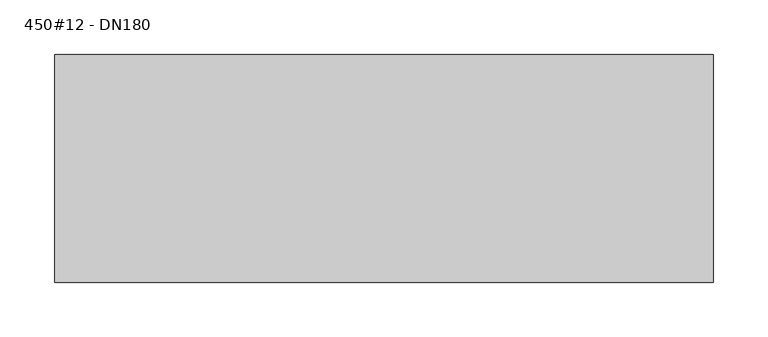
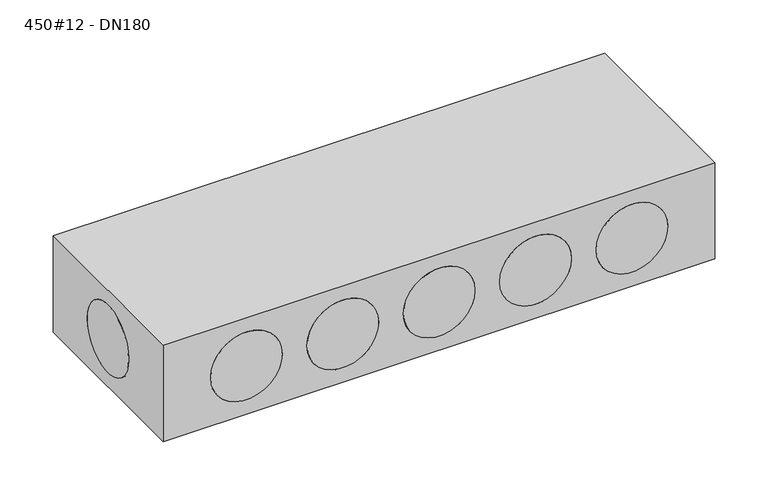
"""IFC4 building model written with IfcOpenShell, lengths in millimetres: duct fitting geometry, NLRS_57_DUF_UN_air plenum_M&G : 450#12 - DN180."""

from ifc_helpers import new_model, si_unit, point, frame, frame_2d, origin, place, context, project, spatial, polyline, circle_curve, trimmed, segment, composite_curve, outline, extrude, source, transform, mapped, element, save
from ifc_brep_helpers import plane_surface, revolved_surface, advanced_brep


def duct_fitting_450_12_dn180_e2c94f1d(model_context):
    return source(origin(), model_context, "Body", "SolidModel", [
        extrude(outline(composite_curve([segment(trimmed(circle_curve(frame_2d((0.0, 55.5)), 39.0), [point((-39.0, 55.5))], [point((39.0, 55.5))], False, "CARTESIAN"), True, "CONTINUOUS"), segment(trimmed(circle_curve(frame_2d((0.0, 55.5)), 39.0), [point((39.0, 55.5))], [point((-39.0, 55.5))], False, "CARTESIAN"), True, "CONTINUOUS")], self_intersect=False)), frame((297.5, 0.0, 0.0), z_axis=(1.0, 0.0, 0.0), x_axis=(0.0, 1.0, 0.0)), (0.0, 0.0, 1.0), 3.0),
        extrude(outline(composite_curve([segment(trimmed(circle_curve(frame_2d((0.0, 55.5)), 39.0), [point((-39.0, 55.5))], [point((39.0, 55.5))], False, "CARTESIAN"), True, "CONTINUOUS"), segment(trimmed(circle_curve(frame_2d((0.0, 55.5)), 39.0), [point((39.0, 55.5))], [point((-39.0, 55.5))], False, "CARTESIAN"), True, "CONTINUOUS")], self_intersect=False)), frame((-300.5, 0.0, 0.0), z_axis=(1.0, 0.0, 0.0), x_axis=(0.0, 1.0, 0.0)), (0.0, 0.0, 1.0), 3.0),
        extrude(outline(composite_curve([segment(trimmed(circle_curve(frame_2d((55.5, -210.0)), 39.0), [point((55.5, -249.0))], [point((55.5, -171.0))], False, "CARTESIAN"), True, "CONTINUOUS"), segment(trimmed(circle_curve(frame_2d((55.5, -210.0)), 39.0), [point((55.5, -171.0))], [point((55.5, -249.0))], False, "CARTESIAN"), True, "CONTINUOUS")], self_intersect=False)), frame((0.0, 101.0, 0.0), z_axis=(0.0, 1.0, 0.0), x_axis=(0.0, 0.0, 1.0)), (0.0, 0.0, 1.0), 3.0),
        extrude(outline(composite_curve([segment(trimmed(circle_curve(frame_2d((55.5, -105.0)), 39.0), [point((55.5, -144.0))], [point((55.5, -66.0))], False, "CARTESIAN"), True, "CONTINUOUS"), segment(trimmed(circle_curve(frame_2d((55.5, -105.0)), 39.0), [point((55.5, -66.0))], [point((55.5, -144.0))], False, "CARTESIAN"), True, "CONTINUOUS")], self_intersect=False)), frame((0.0, 101.0, 0.0), z_axis=(0.0, 1.0, 0.0), x_axis=(0.0, 0.0, 1.0)), (0.0, 0.0, 1.0), 3.0),
        extrude(outline(composite_curve([segment(trimmed(circle_curve(frame_2d((55.5, 0.0)), 39.0), [point((55.5, -39.0))], [point((55.5, 39.0))], False, "CARTESIAN"), True, "CONTINUOUS"), segment(trimmed(circle_curve(frame_2d((55.5, 0.0)), 39.0), [point((55.5, 39.0))], [point((55.5, -39.0))], False, "CARTESIAN"), True, "CONTINUOUS")], self_intersect=False)), frame((0.0, 101.0, 0.0), z_axis=(0.0, 1.0, 0.0), x_axis=(0.0, 0.0, 1.0)), (0.0, 0.0, 1.0), 3.0),
        extrude(outline(composite_curve([segment(trimmed(circle_curve(frame_2d((55.5, 105.0)), 39.0), [point((55.5, 66.0))], [point((55.5, 144.0))], False, "CARTESIAN"), True, "CONTINUOUS"), segment(trimmed(circle_curve(frame_2d((55.5, 105.0)), 39.0), [point((55.5, 144.0))], [point((55.5, 66.0))], False, "CARTESIAN"), True, "CONTINUOUS")], self_intersect=False)), frame((0.0, 101.0, 0.0), z_axis=(0.0, 1.0, 0.0), x_axis=(0.0, 0.0, 1.0)), (0.0, 0.0, 1.0), 3.0),
        extrude(outline(composite_curve([segment(trimmed(circle_curve(frame_2d((55.5, 210.0)), 39.0), [point((55.5, 171.0))], [point((55.5, 249.0))], False, "CARTESIAN"), True, "CONTINUOUS"), segment(trimmed(circle_curve(frame_2d((55.5, 210.0)), 39.0), [point((55.5, 249.0))], [point((55.5, 171.0))], False, "CARTESIAN"), True, "CONTINUOUS")], self_intersect=False)), frame((0.0, 101.0, 0.0), z_axis=(0.0, 1.0, 0.0), x_axis=(0.0, 0.0, 1.0)), (0.0, 0.0, 1.0), 3.0),
        extrude(outline(composite_curve([segment(trimmed(circle_curve(frame_2d((55.5, -210.0)), 39.0), [point((55.5, -249.0))], [point((55.5, -171.0))], False, "CARTESIAN"), True, "CONTINUOUS"), segment(trimmed(circle_curve(frame_2d((55.5, -210.0)), 39.0), [point((55.5, -171.0))], [point((55.5, -249.0))], False, "CARTESIAN"), True, "CONTINUOUS")], self_intersect=False)), frame((0.0, -104.0, 0.0), z_axis=(0.0, 1.0, 0.0), x_axis=(0.0, 0.0, 1.0)), (0.0, 0.0, 1.0), 3.0),
        extrude(outline(composite_curve([segment(trimmed(circle_curve(frame_2d((55.5, -105.0)), 39.0), [point((55.5, -144.0))], [point((55.5, -66.0))], False, "CARTESIAN"), True, "CONTINUOUS"), segment(trimmed(circle_curve(frame_2d((55.5, -105.0)), 39.0), [point((55.5, -66.0))], [point((55.5, -144.0))], False, "CARTESIAN"), True, "CONTINUOUS")], self_intersect=False)), frame((0.0, -104.0, 0.0), z_axis=(0.0, 1.0, 0.0), x_axis=(0.0, 0.0, 1.0)), (0.0, 0.0, 1.0), 3.0),
        extrude(outline(composite_curve([segment(trimmed(circle_curve(frame_2d((55.5, 0.0)), 39.0), [point((55.5, -39.0))], [point((55.5, 39.0))], False, "CARTESIAN"), True, "CONTINUOUS"), segment(trimmed(circle_curve(frame_2d((55.5, 0.0)), 39.0), [point((55.5, 39.0))], [point((55.5, -39.0))], False, "CARTESIAN"), True, "CONTINUOUS")], self_intersect=False)), frame((0.0, -104.0, 0.0), z_axis=(0.0, 1.0, 0.0), x_axis=(0.0, 0.0, 1.0)), (0.0, 0.0, 1.0), 3.0),
        extrude(outline(composite_curve([segment(trimmed(circle_curve(frame_2d((55.5, 105.0)), 39.0), [point((55.5, 66.0))], [point((55.5, 144.0))], False, "CARTESIAN"), True, "CONTINUOUS"), segment(trimmed(circle_curve(frame_2d((55.5, 105.0)), 39.0), [point((55.5, 144.0))], [point((55.5, 66.0))], False, "CARTESIAN"), True, "CONTINUOUS")], self_intersect=False)), frame((0.0, -104.0, 0.0), z_axis=(0.0, 1.0, 0.0), x_axis=(0.0, 0.0, 1.0)), (0.0, 0.0, 1.0), 3.0),
        extrude(outline(composite_curve([segment(trimmed(circle_curve(frame_2d((55.5, 210.0)), 39.0), [point((55.5, 171.0))], [point((55.5, 249.0))], False, "CARTESIAN"), True, "CONTINUOUS"), segment(trimmed(circle_curve(frame_2d((55.5, 210.0)), 39.0), [point((55.5, 249.0))], [point((55.5, 171.0))], False, "CARTESIAN"), True, "CONTINUOUS")], self_intersect=False)), frame((0.0, -104.0, 0.0), z_axis=(0.0, 1.0, 0.0), x_axis=(0.0, 0.0, 1.0)), (0.0, 0.0, 1.0), 3.0),
        advanced_brep(
        [(300.5, 104.0, 111.0), (-300.5, 104.0, 111.0), (-300.5, -104.0, 111.0), (300.5, -104.0, 111.0), (300.5, 104.0, 0.0), (300.5, -104.0, 0.0), (-300.5, -104.0, 0.0), (-300.5, 104.0, 0.0), (-249.0, 104.0, 55.5), (-171.0, 104.0, 55.5), (-144.0, 104.0, 55.5), (-66.0, 104.0, 55.5), (-39.0, 104.0, 55.5), (39.0, 104.0, 55.5), (66.0, 104.0, 55.5), (144.0, 104.0, 55.5), (171.0, 104.0, 55.5), (249.0, 104.0, 55.5), (-300.5, -39.0, 55.5), (-300.5, 39.0, 55.5), (-171.0, -104.0, 55.5), (-249.0, -104.0, 55.5), (-66.0, -104.0, 55.5), (-144.0, -104.0, 55.5), (39.0, -104.0, 55.5), (-39.0, -104.0, 55.5), (144.0, -104.0, 55.5), (66.0, -104.0, 55.5), (249.0, -104.0, 55.5), (171.0, -104.0, 55.5), (300.5, 39.0, 55.5), (300.5, -39.0, 55.5), (-249.0, -95.0, 55.5), (-171.0, -95.0, 55.5), (-144.0, -95.0, 55.5), (-66.0, -95.0, 55.5), (-39.0, -95.0, 55.5), (39.0, -95.0, 55.5), (66.0, -95.0, 55.5), (144.0, -95.0, 55.5), (171.0, -95.0, 55.5), (249.0, -95.0, 55.5), (-295.0, -39.0, 55.5), (-295.0, 39.0, 55.5), (-249.0, 95.0, 55.5), (-171.0, 95.0, 55.5), (-144.0, 95.0, 55.5), (-66.0, 95.0, 55.5), (-39.0, 95.0, 55.5), (39.0, 95.0, 55.5), (66.0, 95.0, 55.5), (144.0, 95.0, 55.5), (171.0, 95.0, 55.5), (249.0, 95.0, 55.5), (295.0, -39.0, 55.5), (295.0, 39.0, 55.5)],
        [
            (0, 1),
            (1, 2),
            (2, 3),
            (3, 0),
            (4, 5),
            (5, 6),
            (6, 7),
            (7, 4),
            (0, 4),
            (7, 1),
            (8, 9, circle_curve(frame((-210.0, 104.0, 55.5), z_axis=(0.0, -1.0, 0.0), x_axis=(1.0, 0.0, 0.0)), 39.0)),
            (9, 8, circle_curve(frame((-210.0, 104.0, 55.5), z_axis=(0.0, -1.0, 0.0), x_axis=(1.0, 0.0, 0.0)), 39.0)),
            (10, 11, circle_curve(frame((-105.0, 104.0, 55.5), z_axis=(0.0, -1.0, 0.0), x_axis=(1.0, 0.0, 0.0)), 39.0)),
            (11, 10, circle_curve(frame((-105.0, 104.0, 55.5), z_axis=(0.0, -1.0, 0.0), x_axis=(1.0, 0.0, 0.0)), 39.0)),
            (12, 13, circle_curve(frame((0.0, 104.0, 55.5), z_axis=(0.0, -1.0, 0.0), x_axis=(1.0, 0.0, 0.0)), 39.0)),
            (13, 12, circle_curve(frame((0.0, 104.0, 55.5), z_axis=(0.0, -1.0, 0.0), x_axis=(1.0, 0.0, 0.0)), 39.0)),
            (14, 15, circle_curve(frame((105.0, 104.0, 55.5), z_axis=(0.0, -1.0, 0.0), x_axis=(1.0, 0.0, 0.0)), 39.0)),
            (15, 14, circle_curve(frame((105.0, 104.0, 55.5), z_axis=(0.0, -1.0, 0.0), x_axis=(1.0, 0.0, 0.0)), 39.0)),
            (16, 17, circle_curve(frame((210.0, 104.0, 55.5), z_axis=(0.0, -1.0, 0.0), x_axis=(1.0, 0.0, 0.0)), 39.0)),
            (17, 16, circle_curve(frame((210.0, 104.0, 55.5), z_axis=(0.0, -1.0, 0.0), x_axis=(1.0, 0.0, 0.0)), 39.0)),
            (6, 2),
            (18, 19, circle_curve(frame((-300.5, 0.0, 55.5), z_axis=(1.0, 0.0, 0.0), x_axis=(0.0, 1.0, 0.0)), 39.0)),
            (19, 18, circle_curve(frame((-300.5, 0.0, 55.5), z_axis=(1.0, 0.0, 0.0), x_axis=(0.0, 1.0, 0.0)), 39.0)),
            (5, 3),
            (20, 21, circle_curve(frame((-210.0, -104.0, 55.5), z_axis=(0.0, 1.0, 0.0), x_axis=(1.0, 0.0, 0.0)), 39.0)),
            (21, 20, circle_curve(frame((-210.0, -104.0, 55.5), z_axis=(0.0, 1.0, 0.0), x_axis=(1.0, 0.0, 0.0)), 39.0)),
            (22, 23, circle_curve(frame((-105.0, -104.0, 55.5), z_axis=(0.0, 1.0, 0.0), x_axis=(1.0, 0.0, 0.0)), 39.0)),
            (23, 22, circle_curve(frame((-105.0, -104.0, 55.5), z_axis=(0.0, 1.0, 0.0), x_axis=(1.0, 0.0, 0.0)), 39.0)),
            (24, 25, circle_curve(frame((0.0, -104.0, 55.5), z_axis=(0.0, 1.0, 0.0), x_axis=(1.0, 0.0, 0.0)), 39.0)),
            (25, 24, circle_curve(frame((0.0, -104.0, 55.5), z_axis=(0.0, 1.0, 0.0), x_axis=(1.0, 0.0, 0.0)), 39.0)),
            (26, 27, circle_curve(frame((105.0, -104.0, 55.5), z_axis=(0.0, 1.0, 0.0), x_axis=(1.0, 0.0, 0.0)), 39.0)),
            (27, 26, circle_curve(frame((105.0, -104.0, 55.5), z_axis=(0.0, 1.0, 0.0), x_axis=(1.0, 0.0, 0.0)), 39.0)),
            (28, 29, circle_curve(frame((210.0, -104.0, 55.5), z_axis=(0.0, 1.0, 0.0), x_axis=(1.0, 0.0, 0.0)), 39.0)),
            (29, 28, circle_curve(frame((210.0, -104.0, 55.5), z_axis=(0.0, 1.0, 0.0), x_axis=(1.0, 0.0, 0.0)), 39.0)),
            (30, 31, circle_curve(frame((300.5, 0.0, 55.5), z_axis=(-1.0, 0.0, 0.0), x_axis=(0.0, 1.0, 0.0)), 39.0)),
            (31, 30, circle_curve(frame((300.5, 0.0, 55.5), z_axis=(-1.0, 0.0, 0.0), x_axis=(0.0, 1.0, 0.0)), 39.0)),
            (32, 33, circle_curve(frame((-210.0, -95.0, 55.5), z_axis=(0.0, -1.0, 0.0), x_axis=(1.0, 0.0, 0.0)), 39.0)),
            (33, 32, circle_curve(frame((-210.0, -95.0, 55.5), z_axis=(0.0, -1.0, 0.0), x_axis=(1.0, 0.0, 0.0)), 39.0)),
            (34, 35, circle_curve(frame((-105.0, -95.0, 55.5), z_axis=(0.0, -1.0, 0.0), x_axis=(1.0, 0.0, 0.0)), 39.0)),
            (35, 34, circle_curve(frame((-105.0, -95.0, 55.5), z_axis=(0.0, -1.0, 0.0), x_axis=(1.0, 0.0, 0.0)), 39.0)),
            (36, 37, circle_curve(frame((0.0, -95.0, 55.5), z_axis=(0.0, -1.0, 0.0), x_axis=(1.0, 0.0, 0.0)), 39.0)),
            (37, 36, circle_curve(frame((0.0, -95.0, 55.5), z_axis=(0.0, -1.0, 0.0), x_axis=(1.0, 0.0, 0.0)), 39.0)),
            (38, 39, circle_curve(frame((105.0, -95.0, 55.5), z_axis=(0.0, -1.0, 0.0), x_axis=(1.0, 0.0, 0.0)), 39.0)),
            (39, 38, circle_curve(frame((105.0, -95.0, 55.5), z_axis=(0.0, -1.0, 0.0), x_axis=(1.0, 0.0, 0.0)), 39.0)),
            (40, 41, circle_curve(frame((210.0, -95.0, 55.5), z_axis=(0.0, -1.0, 0.0), x_axis=(1.0, 0.0, 0.0)), 39.0)),
            (41, 40, circle_curve(frame((210.0, -95.0, 55.5), z_axis=(0.0, -1.0, 0.0), x_axis=(1.0, 0.0, 0.0)), 39.0)),
            (32, 21),
            (20, 33),
            (34, 23),
            (22, 35),
            (36, 25),
            (24, 37),
            (38, 27),
            (26, 39),
            (40, 29),
            (28, 41),
            (42, 43, circle_curve(frame((-295.0, 0.0, 55.5), z_axis=(-1.0, 0.0, 0.0), x_axis=(0.0, 1.0, 0.0)), 39.0)),
            (43, 42, circle_curve(frame((-295.0, 0.0, 55.5), z_axis=(-1.0, 0.0, 0.0), x_axis=(0.0, 1.0, 0.0)), 39.0)),
            (43, 19),
            (18, 42),
            (44, 45, circle_curve(frame((-210.0, 95.0, 55.5), z_axis=(0.0, 1.0, 0.0), x_axis=(1.0, 0.0, 0.0)), 39.0)),
            (45, 44, circle_curve(frame((-210.0, 95.0, 55.5), z_axis=(0.0, 1.0, 0.0), x_axis=(1.0, 0.0, 0.0)), 39.0)),
            (46, 47, circle_curve(frame((-105.0, 95.0, 55.5), z_axis=(0.0, 1.0, 0.0), x_axis=(1.0, 0.0, 0.0)), 39.0)),
            (47, 46, circle_curve(frame((-105.0, 95.0, 55.5), z_axis=(0.0, 1.0, 0.0), x_axis=(1.0, 0.0, 0.0)), 39.0)),
            (48, 49, circle_curve(frame((0.0, 95.0, 55.5), z_axis=(0.0, 1.0, 0.0), x_axis=(1.0, 0.0, 0.0)), 39.0)),
            (49, 48, circle_curve(frame((0.0, 95.0, 55.5), z_axis=(0.0, 1.0, 0.0), x_axis=(1.0, 0.0, 0.0)), 39.0)),
            (50, 51, circle_curve(frame((105.0, 95.0, 55.5), z_axis=(0.0, 1.0, 0.0), x_axis=(1.0, 0.0, 0.0)), 39.0)),
            (51, 50, circle_curve(frame((105.0, 95.0, 55.5), z_axis=(0.0, 1.0, 0.0), x_axis=(1.0, 0.0, 0.0)), 39.0)),
            (52, 53, circle_curve(frame((210.0, 95.0, 55.5), z_axis=(0.0, 1.0, 0.0), x_axis=(1.0, 0.0, 0.0)), 39.0)),
            (53, 52, circle_curve(frame((210.0, 95.0, 55.5), z_axis=(0.0, 1.0, 0.0), x_axis=(1.0, 0.0, 0.0)), 39.0)),
            (45, 9),
            (8, 44),
            (47, 11),
            (10, 46),
            (49, 13),
            (12, 48),
            (51, 15),
            (14, 50),
            (53, 17),
            (16, 52),
            (54, 55, circle_curve(frame((295.0, 0.0, 55.5), z_axis=(1.0, 0.0, 0.0), x_axis=(0.0, 1.0, 0.0)), 39.0)),
            (55, 54, circle_curve(frame((295.0, 0.0, 55.5), z_axis=(1.0, 0.0, 0.0), x_axis=(0.0, 1.0, 0.0)), 39.0)),
            (54, 31),
            (30, 55),
        ],
        [
            plane_surface(frame((-300.5, 104.0, 111.0), z_axis=(0.0, 0.0, 1.0), x_axis=(-1.0, 0.0, 0.0))),
            plane_surface(frame((-300.5, 104.0, 0.0), z_axis=(0.0, 0.0, -1.0), x_axis=(1.0, 0.0, 0.0))),
            plane_surface(frame((300.5, 104.0, 111.0), z_axis=(0.0, 1.0, 0.0), x_axis=(0.0, 0.0, -1.0))),
            plane_surface(frame((-300.5, 104.0, 111.0), z_axis=(-1.0, 0.0, 0.0), x_axis=(0.0, 0.0, -1.0))),
            plane_surface(frame((-300.5, -104.0, 111.0), z_axis=(0.0, -1.0, 0.0), x_axis=(0.0, 0.0, -1.0))),
            plane_surface(frame((300.5, -104.0, 111.0), z_axis=(1.0, 0.0, 0.0), x_axis=(0.0, 0.0, -1.0))),
            plane_surface(frame((-171.0, -95.0, 55.5), z_axis=(0.0, -1.0, 0.0), x_axis=(0.0, 0.0, -1.0))),
            revolved_surface(polyline([(-171.0, -104.0, 55.5), (-171.0, -95.0, 55.5)]), (-210.0, -95.0, 55.5), (0.0, -1.0, 0.0)),
            revolved_surface(polyline([(-66.0, -104.0, 55.5), (-66.0, -95.0, 55.5)]), (-105.0, 0.0, 55.5), (0.0, -1.0, 0.0)),
            revolved_surface(polyline([(39.0, -104.0, 55.5), (39.0, -95.0, 55.5)]), (0.0, 0.0, 55.5), (0.0, -1.0, 0.0)),
            revolved_surface(polyline([(144.0, -104.0, 55.5), (144.0, -95.0, 55.5)]), (105.0, 0.0, 55.5), (0.0, -1.0, 0.0)),
            revolved_surface(polyline([(249.0, -104.0, 55.5), (249.0, -95.0, 55.5)]), (210.0, 0.0, 55.5), (0.0, -1.0, 0.0)),
            plane_surface(frame((-295.0, 39.0, 55.5), z_axis=(-1.0, 0.0, 0.0), x_axis=(0.0, 0.0, 1.0))),
            revolved_surface(polyline([(-295.0, 39.0, 55.5), (-300.5, 39.0, 55.5)]), (-300.5, 0.0, 55.5), (1.0, 0.0, 0.0)),
            plane_surface(frame((-171.0, 95.0, 55.5), z_axis=(0.0, 1.0, 0.0), x_axis=(0.0, 0.0, 1.0))),
            revolved_surface(polyline([(-171.0, 95.0, 55.5), (-171.0, 104.0, 55.5)]), (-210.0, 104.0, 55.5), (0.0, -1.0, 0.0)),
            revolved_surface(polyline([(-66.0, 95.0, 55.5), (-66.0, 104.0, 55.5)]), (-105.0, 0.0, 55.5), (0.0, -1.0, 0.0)),
            revolved_surface(polyline([(39.0, 95.0, 55.5), (39.0, 104.0, 55.5)]), (0.0, 0.0, 55.5), (0.0, -1.0, 0.0)),
            revolved_surface(polyline([(144.0, 95.0, 55.5), (144.0, 104.0, 55.5)]), (105.0, 0.0, 55.5), (0.0, -1.0, 0.0)),
            revolved_surface(polyline([(249.0, 95.0, 55.5), (249.0, 104.0, 55.5)]), (210.0, 0.0, 55.5), (0.0, -1.0, 0.0)),
            plane_surface(frame((295.0, 39.0, 55.5), z_axis=(1.0, 0.0, 0.0), x_axis=(0.0, 0.0, -1.0))),
            revolved_surface(polyline([(300.5, 39.0, 55.5), (295.0, 39.0, 55.5)]), (295.0, 0.0, 55.5), (1.0, 0.0, 0.0)),
        ],
        [
            (0, [[1, 2, 3, 4]]),
            (1, [[5, 6, 7, 8]]),
            (2, [[-1, 9, -8, 10], [11, 12], [13, 14], [15, 16], [17, 18], [19, 20]]),
            (3, [[-2, -10, -7, 21], [22, 23]]),
            (4, [[-3, -21, -6, 24], [25, 26], [27, 28], [29, 30], [31, 32], [33, 34]]),
            (5, [[-4, -24, -5, -9], [35, 36]]),
            (6, [[37, 38]]),
            (6, [[39, 40]]),
            (6, [[41, 42]]),
            (6, [[43, 44]]),
            (6, [[45, 46]]),
            (7, [[-37, 47, -25, 48]]),
            (7, [[-38, -48, -26, -47]]),
            (8, [[-39, 49, -27, 50]]),
            (8, [[-40, -50, -28, -49]]),
            (9, [[-41, 51, -29, 52]]),
            (9, [[-42, -52, -30, -51]]),
            (10, [[-43, 53, -31, 54]]),
            (10, [[-44, -54, -32, -53]]),
            (11, [[-45, 55, -33, 56]]),
            (11, [[-46, -56, -34, -55]]),
            (12, [[57, 58]]),
            (13, [[-58, 59, -22, 60]]),
            (13, [[-57, -60, -23, -59]]),
            (14, [[61, 62]]),
            (14, [[63, 64]]),
            (14, [[65, 66]]),
            (14, [[67, 68]]),
            (14, [[69, 70]]),
            (15, [[-62, 71, -11, 72]]),
            (15, [[-61, -72, -12, -71]]),
            (16, [[-64, 73, -13, 74]]),
            (16, [[-63, -74, -14, -73]]),
            (17, [[-66, 75, -15, 76]]),
            (17, [[-65, -76, -16, -75]]),
            (18, [[-68, 77, -17, 78]]),
            (18, [[-67, -78, -18, -77]]),
            (19, [[-70, 79, -19, 80]]),
            (19, [[-69, -80, -20, -79]]),
            (20, [[81, 82]]),
            (21, [[-81, 83, -35, 84]]),
            (21, [[-82, -84, -36, -83]]),
        ],
    ),
    ])


if __name__ == "__main__":
    model = new_model("IFC4")
    model_context = context("Model", 3, world=origin())
    ifc_project = project(units=[si_unit("LENGTHUNIT", "METRE", prefix="MILLI")], contexts=[model_context])
    site = spatial("IfcSite", under=ifc_project)
    building = spatial("IfcBuilding", under=site)
    placement = place(None, origin())
    duct_fitting_450_12_dn180_shape = duct_fitting_450_12_dn180_e2c94f1d(model_context)
    element("IfcDuctFitting", 1, ObjectType="NLRS_57_DUF_UN_air plenum_M&G : 450#12 - DN180", at=placement, inside=building, context=model_context, shape_type="MappedRepresentation", body=[
        mapped(duct_fitting_450_12_dn180_shape, transform((0.0, 0.0, 0.0), x_axis=(1.0, 0.0, 0.0), y_axis=(0.0, 1.0, 0.0), z_axis=(0.0, 0.0, 1.0))),
    ])
    save(model, "model.ifc")
